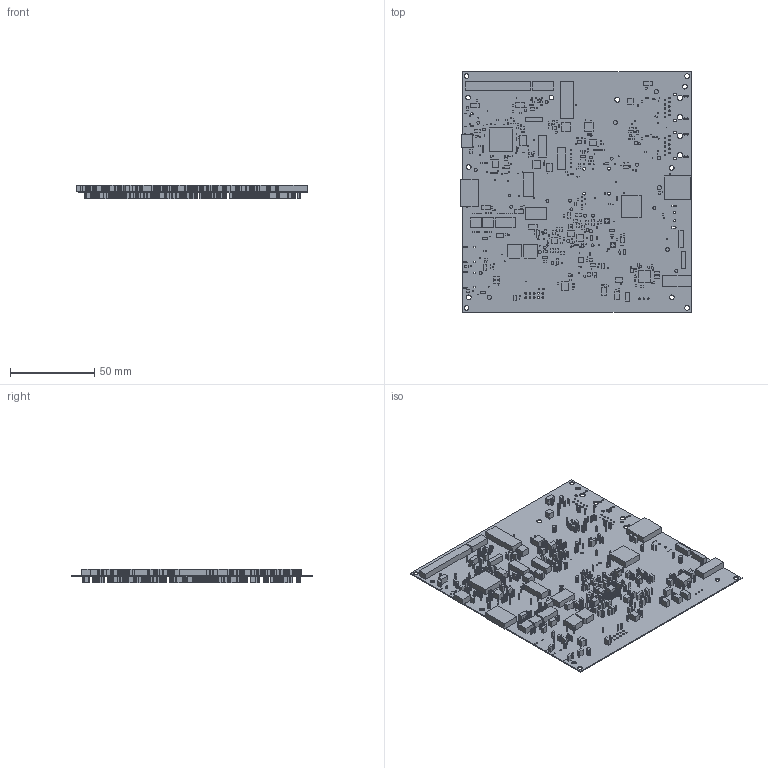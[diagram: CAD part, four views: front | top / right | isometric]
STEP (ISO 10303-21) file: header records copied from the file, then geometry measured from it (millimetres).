
FILE_DESCRIPTION(('Open CASCADE Model'),'2;1');
FILE_NAME('Open CASCADE Shape Model','2025-07-14T14:35:16',('Author'),( 'Open CASCADE'),'Open CASCADE STEP processor 6.8','Open CASCADE 6.8' ,'Unknown');
FILE_SCHEMA(('AUTOMOTIVE_DESIGN { 1 0 10303 214 1 1 1 1 }'));
Length unit declared in the file: millimetre
Products named in the file (1296): PCB; Board; Open CASCADE STEP translator 6.8 1.1.1; TP103; 7235630512; Extruded; TP100; TP96; TP98; TP223; TP222; TP221; TP220; TP94; 7235630672; TP93; TP108; TP71; TP83; TP84; TP115; TP75; TP21; TP89; TP116; TP73; TP31; TP40; TP105; TP69; TP97; TP92; TP90; TP86; TP85; TP202; TP200; TP109; TP101; C148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
Assembly tree (2312 placements, depth 4):
  PCB
    Board
      Open CASCADE STEP translator 6.8 1.1.1
    TP103
      7235630512
        Extruded
    TP100
      7235630512
        Extruded
    TP96
      7235630512
        Extruded
    TP98
      7235630512
        Extruded
    TP223
      7235630512
        Extruded
    TP222
      7235630512
        Extruded
    TP221
      7235630512
        Extruded
    TP220
      7235630512
        Extruded
    TP94
      7235630672
        Extruded
    TP93
      7235630672
        Extruded
    TP108
      7235630672
        Extruded
    TP71
      7235630672
        Extruded
    TP83
      7235630672
        Extruded
    TP84
      7235630672
        Extruded
    TP115
      7235630672
        Extruded
    TP75
      7235630672
        Extruded
    TP21
      7235630672
        Extruded
    TP89
      7235630672
        Extruded
    TP116
      7235630672
        Extruded
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Bounding box: 137.02 x 142.88 x 8.25 mm (x, y, z)
Volume: 25757.3 mm3; surface area: 63446.6 mm2
Topology: 1110 solids, 1110 shells, 10161 faces, 23823 edges, 15882 vertices
Faces by surface type: plane 9976, cylinder 185
Full cylindrical faces by diameter (mm): 0.812 x4, 0.864 x2, 0.914 x20, 1.016 x71, 1.118 x15, 1.22 x2, 1.574 x1, 1.676 x6, 1.728 x4, 2.744 x11, 2.998 x1, 3.2 x4
Entity records: 58487 total; most frequent: DIRECTION 8913, CARTESIAN_POINT 6753, ORIENTED_EDGE 4254, PRODUCT_DEFINITION_SHAPE 3608, AXIS2_PLACEMENT_3D 3578, CONTEXT_DEPENDENT_SHAPE_REPRESENTATION 2312, ITEM_DEFINED_TRANSFORMATION 2312, NEXT_ASSEMBLY_USAGE_OCCURRENCE 2312
